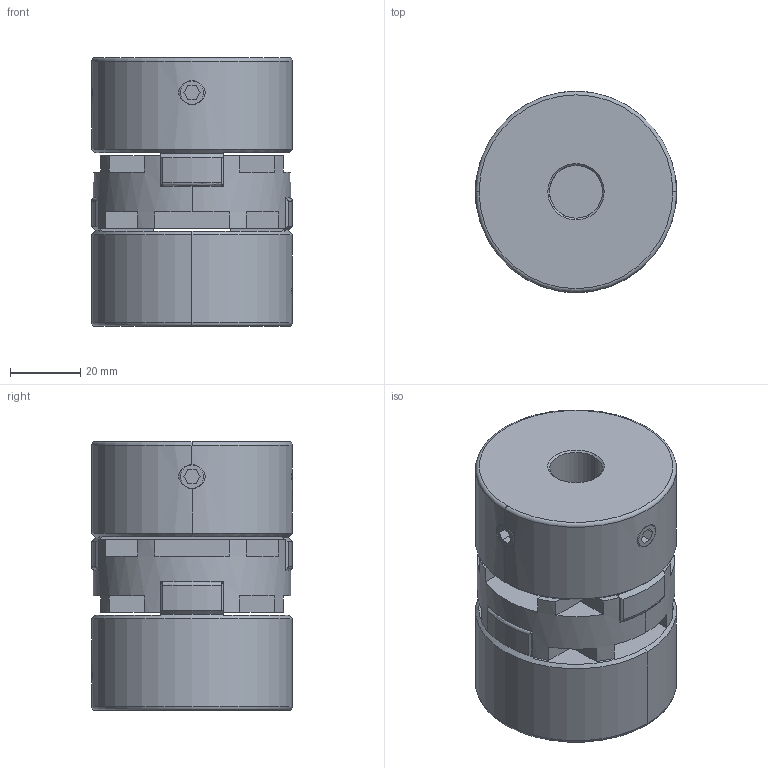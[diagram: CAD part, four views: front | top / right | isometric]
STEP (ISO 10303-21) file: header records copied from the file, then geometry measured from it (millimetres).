
FILE_DESCRIPTION (( 'STEP AP203' ), '1' );
FILE_NAME ('SOH-57-15X28_203.STEP', '2013-01-29T02:37:50', ( '' ), ( '' ), 'SwSTEP 2.0', 'SolidWorks 2012', '' );
FILE_SCHEMA (( 'CONFIG_CONTROL_DESIGN' ));
Length unit declared in the file: millimetre
Products named in the file (1): SOH-57-15X28_203
Bounding box: 57 x 57 x 76.2 mm (x, y, z)
Volume: 150896.5 mm3; surface area: 32327.5 mm2
Topology: 1 solids, 1 shells, 219 faces, 623 edges, 399 vertices
Faces by surface type: plane 149, cylinder 34, cone 20, sphere 8, torus 8
Entity records: 7769 total; most frequent: CARTESIAN_POINT 2038, ORIENTED_EDGE 1246, DIRECTION 1110, EDGE_CURVE 623, VERTEX_POINT 399, VECTOR 392, LINE 392, AXIS2_PLACEMENT_3D 359
